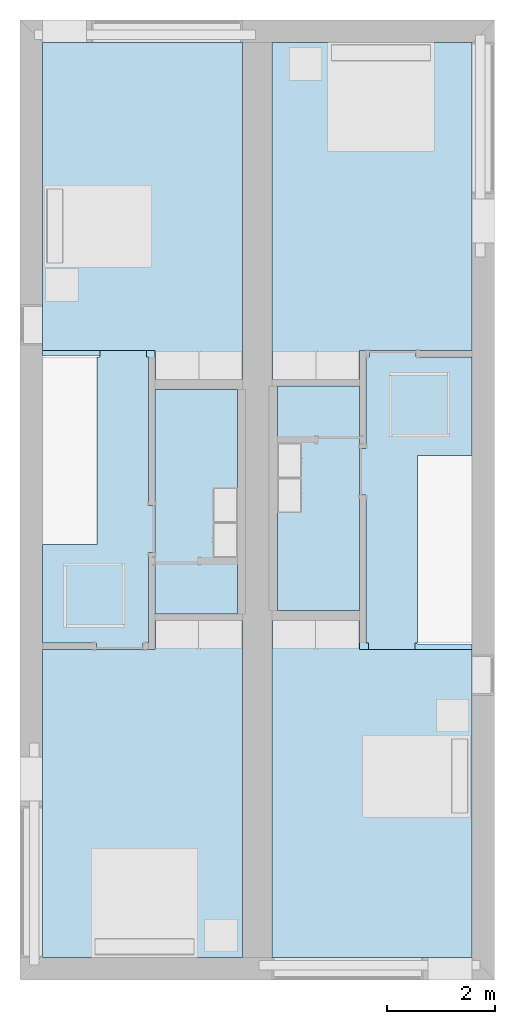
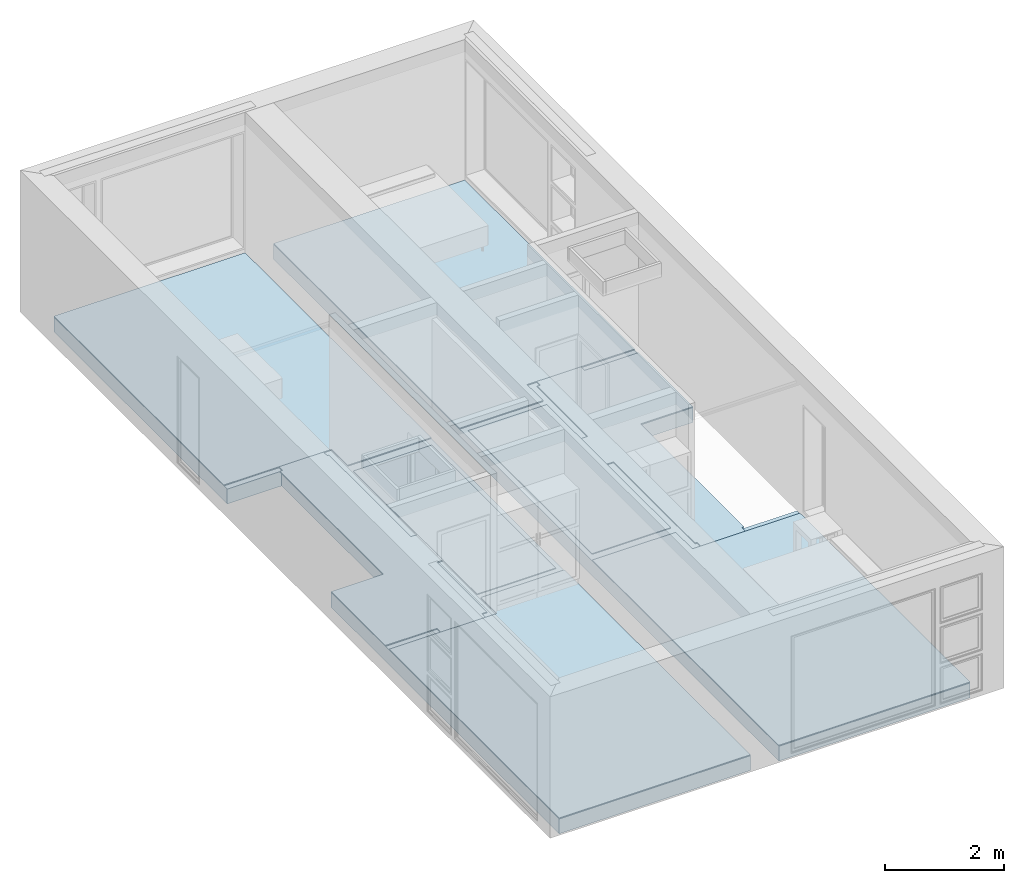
# One storey, part 1 of 8: 10 slabs.
"""IFC4 building model written with IfcOpenShell, lengths in metres."""

from ifc_helpers import new_model, entity, si_unit, converted_unit, frame, frame_2d, origin, place, context, project, spatial, polyline, rectangle, outline, extrude, element, save


model = new_model("IFC4")

# Units and contexts
model_context = context("Model", 3, precision=1e-09, world=origin())
plan_context = context("Plan", 3, precision=1e-09, world=origin())
ifc_project = project(units=[si_unit("LENGTHUNIT", "METRE"), si_unit("AREAUNIT", "SQUARE_METRE"), si_unit("VOLUMEUNIT", "CUBIC_METRE"), converted_unit("PLANEANGLEUNIT", "DEGREE", entity("IfcRatioMeasure", 0.01745329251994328), si_unit("PLANEANGLEUNIT", "RADIAN"), dimensions=[0, 0, 0, 0, 0, 0, 0]), si_unit("TIMEUNIT", "SECOND")], contexts=[model_context, plan_context])

# Site, building, storey
site_placement = place(None, origin())
site = spatial("IfcSite", under=ifc_project, at=site_placement, Name="Default", CompositionType="ELEMENT")
building_placement = place(site_placement, origin())
building = spatial("IfcBuilding", under=site, at=building_placement, CompositionType="ELEMENT")
storey_placement = place(building_placement, frame((0.0, 0.0, 3.100000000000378)))
storey = spatial("IfcBuildingStorey", under=building, at=storey_placement, Name="Level 2", CompositionType="ELEMENT", Elevation=3.100000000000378)

# Slabs
slab_1_placement = place(storey_placement, frame((0.4169999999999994, -17.38299999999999, -0.3050000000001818)))
element("IfcSlab", 1, at=slab_1_placement, inside=storey, Name="Floor:Residential - Wood Joist with Subflooring", ObjectType="Floor:Residential - Wood Joist with Subflooring", PredefinedType="FLOOR", context=model_context, shape_type="SweptSolid", body=[
    extrude(outline(polyline([(-1.854000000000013, 8.48299999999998), (-1.853999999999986, -8.482999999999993), (1.853999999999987, -8.482999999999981), (1.853999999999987, -0.8250000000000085), (0.799599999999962, -0.8250000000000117), (0.7995999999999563, 2.665999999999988), (1.853999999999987, 2.665999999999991), (1.853999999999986, 8.482999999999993), (-1.854000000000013, 8.48299999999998)])), frame((1.853999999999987, 8.482999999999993, 0.305), z_axis=(0.0, 0.0, -1.0), x_axis=(-1.0, 0.0, 0.0)), (0.0, 0.0, 1.0), 0.305),
])
slab_2_placement = place(storey_placement, frame((4.674999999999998, -17.383, -0.3050000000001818)))
element("IfcSlab", 2, at=slab_2_placement, inside=storey, Name="Floor:Residential - Wood Joist with Subflooring", ObjectType="Floor:Residential - Wood Joist with Subflooring", PredefinedType="FLOOR", context=model_context, shape_type="SweptSolid", body=[
    extrude(outline(polyline([(-1.854000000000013, 8.48299999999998), (-1.854000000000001, 0.8250000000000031), (-0.829600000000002, 0.8250000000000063), (-0.8295999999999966, -2.665999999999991), (-1.853999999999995, -2.665999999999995), (-1.853999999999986, -8.482999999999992), (1.853999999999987, -8.482999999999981), (1.853999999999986, 8.482999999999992), (-1.854000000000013, 8.48299999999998)])), frame((1.853999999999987, 8.482999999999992, 0.305), z_axis=(0.0, 0.0, -1.0), x_axis=(-1.0, 0.0, 0.0)), (0.0, 0.0, 1.0), 0.305),
])
slab_3_placement = place(storey_placement, frame((0.4169999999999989, -6.666000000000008, 0.0)))
element("IfcSlab", 3, at=slab_3_placement, inside=storey, Name="Floor:Finish Floor - Wood", ObjectType="Floor:Finish Floor - Wood", PredefinedType="FLOOR", context=model_context, shape_type="SweptSolid", body=[
    extrude(outline(polyline([(1.853999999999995, 3.124500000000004), (-1.854000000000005, 3.124499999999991), (-1.853999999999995, -3.124500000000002), (-0.235000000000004, -3.124499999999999), (-0.235000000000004, -2.584499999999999), (1.853999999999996, -2.584499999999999), (1.853999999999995, 3.124500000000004)])), frame((1.853999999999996, 3.124500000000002, 0.01900000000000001), z_axis=(0.0, 0.0, -1.0), x_axis=(-1.0, 0.0, 0.0)), (0.0, 0.0, 1.0), 0.01900000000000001),
])
slab_4_placement = place(storey_placement, frame((4.675, -6.666000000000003, 0.0)))
element("IfcSlab", 4, at=slab_4_placement, inside=storey, Name="Floor:Finish Floor - Wood", ObjectType="Floor:Finish Floor - Wood", PredefinedType="FLOOR", context=model_context, shape_type="SweptSolid", body=[
    extrude(outline(polyline([(-1.854000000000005, 3.124499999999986), (-1.853999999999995, -2.584499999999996), (0.2349999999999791, -2.58449999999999), (0.2349999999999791, -3.124499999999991), (1.853999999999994, -3.124499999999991), (1.853999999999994, 3.124499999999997), (-1.854000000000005, 3.124499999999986)])), frame((1.853999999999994, 3.124499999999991, 0.01900000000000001), z_axis=(0.0, 0.0, -1.0), x_axis=(-1.0, 0.0, 0.0)), (0.0, 0.0, 1.0), 0.01900000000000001),
])
slab_5_placement = place(storey_placement, frame((4.674999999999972, -17.383, 0.0)))
element("IfcSlab", 5, at=slab_5_placement, inside=storey, Name="Floor:Finish Floor - Wood", ObjectType="Floor:Finish Floor - Wood", PredefinedType="FLOOR", context=model_context, shape_type="SweptSolid", body=[
    extrude(outline(polyline([(-1.854000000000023, 2.576499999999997), (-1.853999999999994, -3.132499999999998), (1.854000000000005, -3.132499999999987), (1.853999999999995, 3.132499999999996), (0.2349999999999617, 3.132499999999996), (0.2349999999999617, 2.576499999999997), (-1.854000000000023, 2.576499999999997)])), frame((1.854000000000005, 3.132499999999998, 0.01900000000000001), z_axis=(0.0, 0.0, -1.0), x_axis=(-1.0, 0.0, 0.0)), (0.0, 0.0, 1.0), 0.01900000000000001),
])
slab_6_placement = place(storey_placement, frame((0.4169999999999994, -17.38299999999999, 0.0)))
element("IfcSlab", 6, at=slab_6_placement, inside=storey, Name="Floor:Finish Floor - Wood", ObjectType="Floor:Finish Floor - Wood", PredefinedType="FLOOR", context=model_context, shape_type="SweptSolid", body=[
    extrude(outline(polyline([(-1.853999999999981, -3.124499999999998), (1.853999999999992, -3.124499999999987), (1.853999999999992, 2.584499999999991), (-0.2350000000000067, 2.584499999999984), (-0.2350000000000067, 3.124499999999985), (-1.854000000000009, 3.124499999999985), (-1.853999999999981, -3.124499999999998)])), frame((1.853999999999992, 3.124499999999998, 0.01900000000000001), z_axis=(0.0, 0.0, -1.0), x_axis=(-1.0, 0.0, 0.0)), (0.0, 0.0, 1.0), 0.01900000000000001),
])
slab_7_placement = place(storey_placement, frame((0.4169999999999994, -11.674, 0.0)))
element("IfcSlab", 7, at=slab_7_placement, inside=storey, Name="Floor:Finish Floor - Wood", ObjectType="Floor:Finish Floor - Wood", PredefinedType="FLOOR", context=model_context, shape_type="SweptSolid", body=[
    extrude(outline(polyline([(-0.9205000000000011, -0.1060511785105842), (-1.0445, -0.1060511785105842), (-1.0445, -0.9700511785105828), (-0.9205000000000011, -0.9700511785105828), (-0.9205000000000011, -2.649999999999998), (-0.8204999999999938, -2.649999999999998), (-0.8204999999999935, -2.774), (0.04350000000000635, -2.773999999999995), (0.04350000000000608, -2.649999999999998), (1.0445, -2.649999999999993), (1.0445, -0.8249999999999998), (0.03009999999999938, -0.825000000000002), (0.03009999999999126, 2.649999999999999), (-0.02179999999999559, 2.649999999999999), (-0.02179999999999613, 2.773999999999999), (-0.8857999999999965, 2.773999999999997), (-0.885799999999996, 2.650000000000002), (-0.9205000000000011, 2.650000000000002), (-0.9205000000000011, -0.1060511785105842)])), frame((1.0445, 2.774, 0.01900000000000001), z_axis=(0.0, 0.0, -1.0), x_axis=(-1.0, 0.0, 0.0)), (0.0, 0.0, 1.0), 0.01900000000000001),
])
slab_8_placement = place(storey_placement, frame((6.294000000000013, -11.67400000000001, 0.0)))
element("IfcSlab", 8, at=slab_8_placement, inside=storey, Name="Floor:Finish Floor - Wood", ObjectType="Floor:Finish Floor - Wood", PredefinedType="FLOOR", context=model_context, shape_type="SweptSolid", body=[
    extrude(outline(polyline([(0.9205000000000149, 0.09061576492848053), (1.044499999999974, 0.09061576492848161), (1.044499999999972, 0.9546157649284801), (0.9204999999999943, 0.9546157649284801), (0.9204999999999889, 2.650000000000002), (0.8604999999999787, 2.650000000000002), (0.8604999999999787, 2.774000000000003), (-0.003500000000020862, 2.773999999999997), (-0.003500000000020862, 2.649999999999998), (-1.044499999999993, 2.649999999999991), (-1.044499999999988, 0.8249999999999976), (-0.03010000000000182, 0.8250000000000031), (-0.03009999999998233, -2.649999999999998), (0.01720000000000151, -2.649999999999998), (0.01720000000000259, -2.773999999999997), (0.8812000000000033, -2.773999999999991), (0.8812000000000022, -2.649999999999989), (0.9205000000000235, -2.649999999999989), (0.9205000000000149, 0.09061576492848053)])), frame((1.044499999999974, 2.773999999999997, 0.01900000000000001), z_axis=(0.0, 0.0, -1.0), x_axis=(-1.0, 0.0, 0.0)), (0.0, 0.0, 1.0), 0.01900000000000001),
])
slab_9_placement = place(storey_placement, frame((2.505999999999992, -11.01, 0.0)))
element("IfcSlab", 9, at=slab_9_placement, inside=storey, Name="Floor:Finish Floor - Ceramic Tile", ObjectType="Floor:Finish Floor - Ceramic Tile", PredefinedType="FLOOR", context=model_context, shape_type="SweptSolid", body=[
    extrude(rectangle(XDim=4.16, YDim=1.523999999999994, at=frame_2d((0.0, 0.0), x_axis=(0.0, -1.0))), frame((0.7619999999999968, 2.080000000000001, 0.01299999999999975), z_axis=(0.0, 0.0, -1.0), x_axis=(-1.0, 0.0, 0.0)), (0.0, 0.0, 1.0), 0.01299999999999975),
])
slab_10_placement = place(storey_placement, frame((4.769999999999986, -10.95000000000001, 0.0)))
element("IfcSlab", 10, at=slab_10_placement, inside=storey, Name="Floor:Finish Floor - Ceramic Tile", ObjectType="Floor:Finish Floor - Ceramic Tile", PredefinedType="FLOOR", context=model_context, shape_type="SweptSolid", body=[
    extrude(rectangle(XDim=4.160000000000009, YDim=1.524000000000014, at=frame_2d((0.0, 0.0), x_axis=(0.0, -1.0))), frame((0.7620000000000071, 2.080000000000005, 0.01299999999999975), z_axis=(0.0, 0.0, -1.0), x_axis=(-1.0, 0.0, 0.0)), (0.0, 0.0, 1.0), 0.01299999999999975),
])

save(model, "model.ifc")
